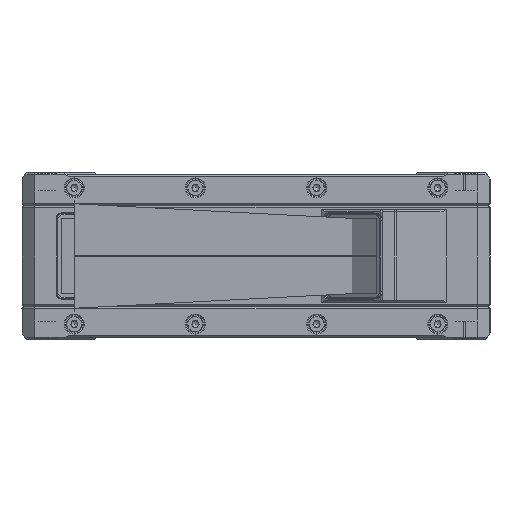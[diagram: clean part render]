
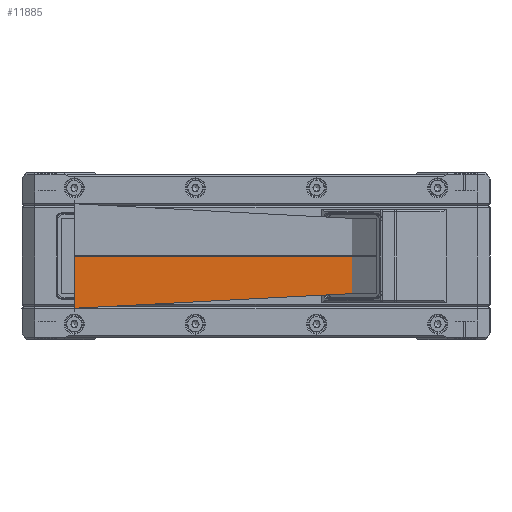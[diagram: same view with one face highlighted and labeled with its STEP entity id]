
A CAD part, front view. The second image highlights one B-rep face of the part: STEP entity #11885.
In plain terms, the highlighted planar face has unit normal (0.766, -0.643, 0).
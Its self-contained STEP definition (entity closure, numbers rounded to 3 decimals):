
#8111 = FACE_OUTER_BOUND ( 'NONE', #85664, .T. ) ;
#10752 = CARTESIAN_POINT ( 'NONE',  ( 22.997, -16.753, -9. ) ) ;
#11029 = VERTEX_POINT ( 'NONE', #69487 ) ;
#11885 = ADVANCED_FACE ( 'NONE', ( #8111 ), #103193, .T. ) ;
#13842 = DIRECTION ( 'NONE',  ( 0.643, 0.766, 0. ) ) ;
#15411 = VERTEX_POINT ( 'NONE', #91305 ) ;
#15815 = CARTESIAN_POINT ( 'NONE',  ( -43.499, -96., -12.5 ) ) ;
#22231 = VECTOR ( 'NONE', #108318, 1000. ) ;
#22362 = CARTESIAN_POINT ( 'NONE',  ( 21.744, -18.246, 0. ) ) ;
#30057 = EDGE_CURVE ( 'NONE', #105097, #84830, #66253, .T. ) ;
#46337 = DIRECTION ( 'NONE',  ( 0.766, -0.643, 0. ) ) ;
#51608 = DIRECTION ( 'NONE',  ( 0., 0., 1. ) ) ;
#56390 = CARTESIAN_POINT ( 'NONE',  ( 21.744, -18.246, -0.001 ) ) ;
#66253 = LINE ( 'NONE', #162332, #104110 ) ;
#69487 = CARTESIAN_POINT ( 'NONE',  ( 22.997, -16.753, -9. ) ) ;
#71225 = CARTESIAN_POINT ( 'NONE',  ( -43.499, -96., -0.001 ) ) ;
#76455 = DIRECTION ( 'NONE',  ( 0., 0., -1. ) ) ;
#81323 = LINE ( 'NONE', #56390, #120302 ) ;
#84227 = ORIENTED_EDGE ( 'NONE', *, *, #30057, .T. ) ;
#84830 = VERTEX_POINT ( 'NONE', #110596 ) ;
#85664 = EDGE_LOOP ( 'NONE', ( #141502, #84227, #152968, #166764 ) ) ;
#86218 = EDGE_CURVE ( 'NONE', #84830, #11029, #131424, .T. ) ;
#91305 = CARTESIAN_POINT ( 'NONE',  ( 22.997, -16.753, -0.001 ) ) ;
#93408 = EDGE_CURVE ( 'NONE', #11029, #15411, #129895, .T. ) ;
#103193 = PLANE ( 'NONE',  #139783 ) ;
#104110 = VECTOR ( 'NONE', #105534, 1000. ) ;
#105097 = VERTEX_POINT ( 'NONE', #71225 ) ;
#105534 = DIRECTION ( 'NONE',  ( 0., 0., -1. ) ) ;
#108318 = DIRECTION ( 'NONE',  ( 0.642, 0.766, 0.034 ) ) ;
#110596 = CARTESIAN_POINT ( 'NONE',  ( -43.499, -96., -12.5 ) ) ;
#120302 = VECTOR ( 'NONE', #13842, 1000. ) ;
#129895 = LINE ( 'NONE', #10752, #170709 ) ;
#131424 = LINE ( 'NONE', #15815, #22231 ) ;
#139783 = AXIS2_PLACEMENT_3D ( 'NONE', #22362, #46337, #76455 ) ;
#141502 = ORIENTED_EDGE ( 'NONE', *, *, #169614, .F. ) ;
#152968 = ORIENTED_EDGE ( 'NONE', *, *, #86218, .T. ) ;
#162332 = CARTESIAN_POINT ( 'NONE',  ( -43.499, -96., 12.5 ) ) ;
#166764 = ORIENTED_EDGE ( 'NONE', *, *, #93408, .T. ) ;
#169614 = EDGE_CURVE ( 'NONE', #105097, #15411, #81323, .T. ) ;
#170709 = VECTOR ( 'NONE', #51608, 1000. ) ;
